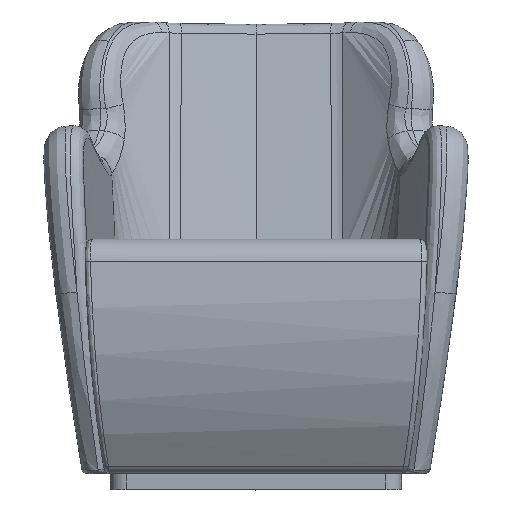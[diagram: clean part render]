
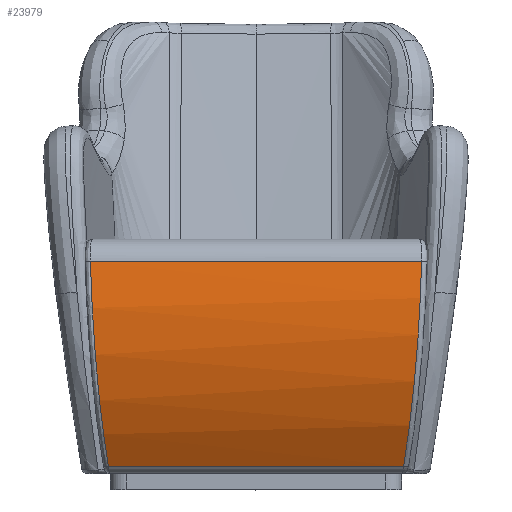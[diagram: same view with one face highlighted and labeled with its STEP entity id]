
A CAD part, top view. The second image highlights one B-rep face of the part: STEP entity #23979.
In plain terms, the highlighted cylindrical face has radius 525.307 mm (diameter 1050.61 mm), a partial arc.
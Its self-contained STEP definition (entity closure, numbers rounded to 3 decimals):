
#69 = EDGE_CURVE ( 'NONE', #6767, #22934, #2892, .T. ) ;
#117 = CARTESIAN_POINT ( 'NONE',  ( -302.546, -90.904, 525.038 ) ) ;
#377 = CARTESIAN_POINT ( 'NONE',  ( -300.872, -111.828, 521.542 ) ) ;
#502 = CARTESIAN_POINT ( 'NONE',  ( -284.436, -259.745, 469.393 ) ) ;
#921 = B_SPLINE_CURVE_WITH_KNOTS ( 'NONE', 3,
 ( #11814, #4297, #15759, #17930, #10156, #23257, #11689, #8239, #2146, #5700, #15887, #117, #23511, #10035, #377, #15505, #4041, #13475, #25146, #11567, #15633, #17414, #13854, #19335, #19461, #21249, #502, #8113, #7852, #7728 ),
 .UNSPECIFIED., .F., .F.,
 ( 4, 2, 2, 2, 2, 2, 2, 2, 2, 2, 2, 2, 2, 2, 4 ),
 ( 0., 0.05, 0.101, 0.151, 0.164, 0.17, 0.177, 0.202, 0.252, 0.303, 0.328, 0.341, 0.347, 0.353, 0.404 ),
 .UNSPECIFIED. ) ;
#1086 = B_SPLINE_CURVE_WITH_KNOTS ( 'NONE', 3,
 ( #15883, #25016, #13469, #11560, #21367, #5694, #19329, #1890, #6073, #4165, #13977, #23505, #10030, #12057, #17408, #4292, #3905, #3778, #11809, #23632 ),
 .UNSPECIFIED., .F., .F.,
 ( 4, 2, 2, 2, 2, 2, 2, 2, 2, 4 ),
 ( 0., 0.05, 0.101, 0.151, 0.177, 0.202, 0.252, 0.303, 0.353, 0.404 ),
 .UNSPECIFIED. ) ;
#1890 = CARTESIAN_POINT ( 'NONE',  ( 296.305, -161.323, 509.577 ) ) ;
#2146 = CARTESIAN_POINT ( 'NONE',  ( -303.495, -78.301, 526.778 ) ) ;
#2466 = ORIENTED_EDGE ( 'NONE', *, *, #69, .T. ) ;
#2525 = DIRECTION ( 'NONE',  ( 0., 0., -1. ) ) ;
#2892 = LINE ( 'NONE', #8742, #17609 ) ;
#3778 = CARTESIAN_POINT ( 'NONE',  ( 310.387, 47.542, 527.548 ) ) ;
#3905 = CARTESIAN_POINT ( 'NONE',  ( 308.991, 13.568, 530.393 ) ) ;
#4041 = CARTESIAN_POINT ( 'NONE',  ( -297.181, -152.859, 512.193 ) ) ;
#4165 = CARTESIAN_POINT ( 'NONE',  ( 298.678, -136.743, 516.155 ) ) ;
#4292 = CARTESIAN_POINT ( 'NONE',  ( 308.172, -3.34, 530.978 ) ) ;
#4297 = CARTESIAN_POINT ( 'NONE',  ( -310.957, 64.427, 525.304 ) ) ;
#5461 = ORIENTED_EDGE ( 'NONE', *, *, #16565, .T. ) ;
#5694 = CARTESIAN_POINT ( 'NONE',  ( 292.017, -201.217, 496.314 ) ) ;
#5700 = CARTESIAN_POINT ( 'NONE',  ( -303.026, -84.602, 525.941 ) ) ;
#6073 = CARTESIAN_POINT ( 'NONE',  ( 297.114, -153.188, 511.896 ) ) ;
#6087 = CYLINDRICAL_SURFACE ( 'NONE', #24455, 525.307 ) ;
#6767 = VERTEX_POINT ( 'NONE', #20169 ) ;
#7728 = CARTESIAN_POINT ( 'NONE',  ( -277.465, -305.043, 442.32 ) ) ;
#7807 = LINE ( 'NONE', #19290, #22130 ) ;
#7852 = CARTESIAN_POINT ( 'NONE',  ( -279.804, -290.994, 451.703 ) ) ;
#8113 = CARTESIAN_POINT ( 'NONE',  ( -282.038, -276.516, 460.396 ) ) ;
#8239 = CARTESIAN_POINT ( 'NONE',  ( -303.8, -74.1, 527.285 ) ) ;
#8742 = CARTESIAN_POINT ( 'NONE',  ( -435.622, 81.202, 522.237 ) ) ;
#10030 = CARTESIAN_POINT ( 'NONE',  ( 302.878, -87.113, 525.856 ) ) ;
#10035 = CARTESIAN_POINT ( 'NONE',  ( -301.559, -103.501, 523.064 ) ) ;
#10156 = CARTESIAN_POINT ( 'NONE',  ( -308.204, -2.711, 530.964 ) ) ;
#11560 = CARTESIAN_POINT ( 'NONE',  ( 286.243, -247.119, 476.177 ) ) ;
#11567 = CARTESIAN_POINT ( 'NONE',  ( -289.258, -223.756, 486.861 ) ) ;
#11689 = CARTESIAN_POINT ( 'NONE',  ( -305.283, -53.097, 529.563 ) ) ;
#11809 = CARTESIAN_POINT ( 'NONE',  ( 310.957, 64.425, 525.304 ) ) ;
#11814 = CARTESIAN_POINT ( 'NONE',  ( -311.404, 81.202, 522.237 ) ) ;
#12057 = CARTESIAN_POINT ( 'NONE',  ( 305.239, -53.757, 529.508 ) ) ;
#13072 = DIRECTION ( 'NONE',  ( -1., 0., 0. ) ) ;
#13107 = CARTESIAN_POINT ( 'NONE',  ( 277.465, -305.043, 442.32 ) ) ;
#13401 = ORIENTED_EDGE ( 'NONE', *, *, #21374, .T. ) ;
#13469 = CARTESIAN_POINT ( 'NONE',  ( 282.025, -276.594, 460.344 ) ) ;
#13475 = CARTESIAN_POINT ( 'NONE',  ( -293.865, -184.837, 502.277 ) ) ;
#13854 = CARTESIAN_POINT ( 'NONE',  ( -286.265, -246.6, 476.157 ) ) ;
#13977 = CARTESIAN_POINT ( 'NONE',  ( 299.427, -128.5, 518.077 ) ) ;
#14452 = CARTESIAN_POINT ( 'NONE',  ( -277.465, -305.043, 442.32 ) ) ;
#15259 = VERTEX_POINT ( 'NONE', #13107 ) ;
#15505 = CARTESIAN_POINT ( 'NONE',  ( -298.725, -136.608, 516.396 ) ) ;
#15633 = CARTESIAN_POINT ( 'NONE',  ( -288.283, -231.421, 483.437 ) ) ;
#15759 = CARTESIAN_POINT ( 'NONE',  ( -310.39, 47.647, 527.53 ) ) ;
#15883 = CARTESIAN_POINT ( 'NONE',  ( 277.465, -305.043, 442.32 ) ) ;
#15887 = CARTESIAN_POINT ( 'NONE',  ( -302.867, -86.703, 525.648 ) ) ;
#16565 = EDGE_CURVE ( 'NONE', #22934, #17332, #921, .T. ) ;
#17332 = VERTEX_POINT ( 'NONE', #14452 ) ;
#17408 = CARTESIAN_POINT ( 'NONE',  ( 306.297, -37.002, 530.535 ) ) ;
#17414 = CARTESIAN_POINT ( 'NONE',  ( -286.775, -242.818, 478.013 ) ) ;
#17609 = VECTOR ( 'NONE', #13072, 1000. ) ;
#17930 = CARTESIAN_POINT ( 'NONE',  ( -309.013, 14.078, 530.36 ) ) ;
#18123 = EDGE_LOOP ( 'NONE', ( #24671, #13401, #2466, #5461 ) ) ;
#18494 = CARTESIAN_POINT ( 'NONE',  ( -311.404, 81.202, 522.237 ) ) ;
#18641 = EDGE_CURVE ( 'NONE', #17332, #15259, #7807, .T. ) ;
#19290 = CARTESIAN_POINT ( 'NONE',  ( -435.622, -305.043, 442.32 ) ) ;
#19329 = CARTESIAN_POINT ( 'NONE',  ( 293.797, -185.466, 502.063 ) ) ;
#19335 = CARTESIAN_POINT ( 'NONE',  ( -285.488, -252.248, 473.3 ) ) ;
#19461 = CARTESIAN_POINT ( 'NONE',  ( -285.227, -254.126, 472.335 ) ) ;
#19848 = CARTESIAN_POINT ( 'NONE',  ( -435.622, -13.27, 5.495 ) ) ;
#20169 = CARTESIAN_POINT ( 'NONE',  ( 311.404, 81.202, 522.237 ) ) ;
#21249 = CARTESIAN_POINT ( 'NONE',  ( -284.701, -257.875, 470.382 ) ) ;
#21367 = CARTESIAN_POINT ( 'NONE',  ( 288.24, -232.043, 483.371 ) ) ;
#21374 = EDGE_CURVE ( 'NONE', #15259, #6767, #1086, .T. ) ;
#22130 = VECTOR ( 'NONE', #23340, 1000. ) ;
#22934 = VERTEX_POINT ( 'NONE', #18494 ) ;
#23257 = CARTESIAN_POINT ( 'NONE',  ( -306.339, -36.299, 530.566 ) ) ;
#23340 = DIRECTION ( 'NONE',  ( 1., 0., 0. ) ) ;
#23392 = DIRECTION ( 'NONE',  ( 1., 0., 0. ) ) ;
#23505 = CARTESIAN_POINT ( 'NONE',  ( 301.575, -103.715, 523.232 ) ) ;
#23511 = CARTESIAN_POINT ( 'NONE',  ( -302.383, -93.006, 524.719 ) ) ;
#23632 = CARTESIAN_POINT ( 'NONE',  ( 311.404, 81.202, 522.237 ) ) ;
#23893 = FACE_OUTER_BOUND ( 'NONE', #18123, .T. ) ;
#23979 = ADVANCED_FACE ( 'NONE', ( #23893 ), #6087, .T. ) ;
#24455 = AXIS2_PLACEMENT_3D ( 'NONE', #19848, #23392, #2525 ) ;
#24671 = ORIENTED_EDGE ( 'NONE', *, *, #18641, .T. ) ;
#25016 = CARTESIAN_POINT ( 'NONE',  ( 279.804, -290.993, 451.704 ) ) ;
#25146 = CARTESIAN_POINT ( 'NONE',  ( -292.093, -200.563, 496.565 ) ) ;
